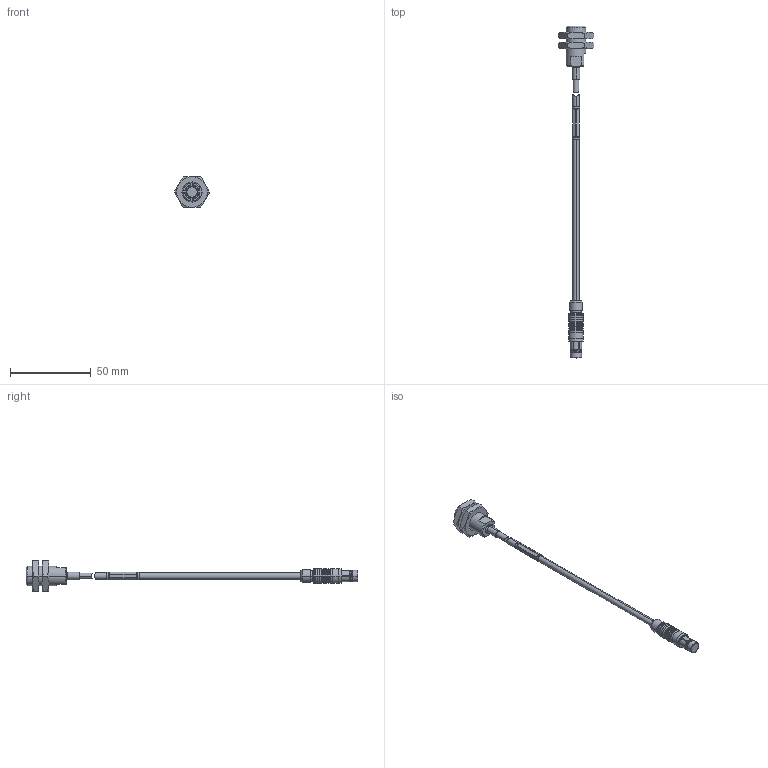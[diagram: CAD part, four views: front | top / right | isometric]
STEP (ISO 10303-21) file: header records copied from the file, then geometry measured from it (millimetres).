
FILE_DESCRIPTION((''),'2;1');
FILE_NAME('0000181073_ASM','2018-08-06T',('11000065'),(''),'CREO PARAMETRIC BY PTC INC, 2018070','CREO PARAMETRIC BY PTC INC, 2018070','');
FILE_SCHEMA(('AUTOMOTIVE_DESIGN { 1 0 10303 214 1 1 1 1 }'));
Length unit declared in the file: millimetre
Products named in the file (4): 0000181071; 0000046188; 0000181487; 0000181073_ASM
Assembly tree (4 placements, depth 2):
  0000181073_ASM
    0000181071
    0000046188  x2
    0000181487
Bounding box: 21.94 x 205.41 x 19 mm (x, y, z)
Volume: 7924.1 mm3; surface area: 6689.2 mm2
Topology: 4 solids, 5 shells, 306 faces, 723 edges, 452 vertices
Faces by surface type: cylinder 114, plane 89, cone 71, torus 28, revolution 4
Entity records: 11579 total; most frequent: CARTESIAN_POINT 2542, DIRECTION 1412, ORIENTED_EDGE 1366, PRESENTATION_STYLE_ASSIGNMENT 695, STYLED_ITEM 686, CURVE_STYLE 683, EDGE_CURVE 683, AXIS2_PLACEMENT_3D 579
